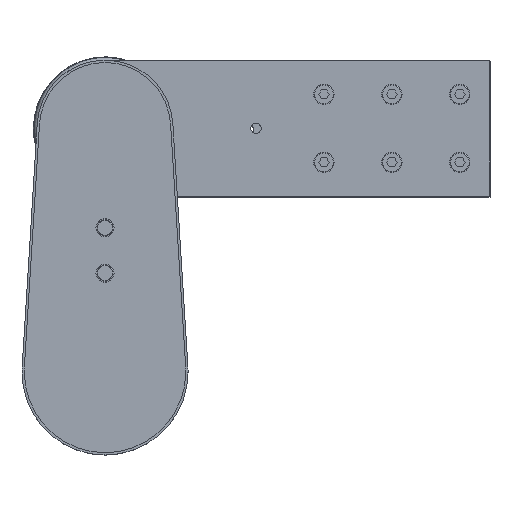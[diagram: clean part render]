
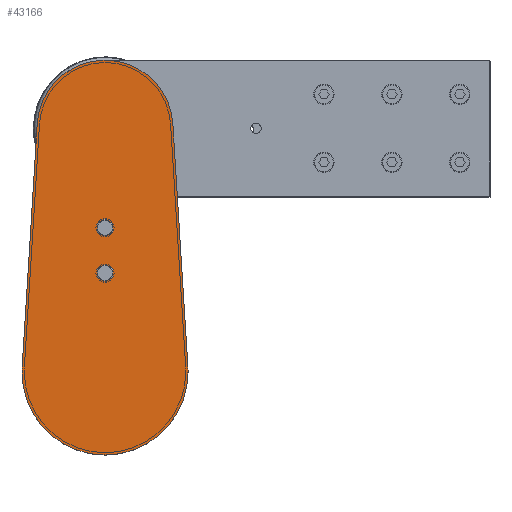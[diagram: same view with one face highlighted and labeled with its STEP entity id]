
A CAD part, top view. The second image highlights one B-rep face of the part: STEP entity #43166.
In plain terms, the highlighted planar face has unit normal (0, 0, 1) as drawn and (0, 0, -1) by its records, which use the part's own axes.
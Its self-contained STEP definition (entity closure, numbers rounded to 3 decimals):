
#2087 = EDGE_LOOP ( 'NONE', ( #16420, #16421 ) ) ;
#2092 = EDGE_LOOP ( 'NONE', ( #16424, #16425, #16426, #16427, #16428, #16429 ) ) ;
#2093 = EDGE_LOOP ( 'NONE', ( #16422, #16423 ) ) ;
#4927 = EDGE_CURVE ( 'NONE', #16083, #16084, #23055, .T. ) ;
#5040 = EDGE_CURVE ( 'NONE', #16084, #16083, #22898, .T. ) ;
#5044 = EDGE_CURVE ( 'NONE', #16078, #16076, #22892, .T. ) ;
#5059 = EDGE_CURVE ( 'NONE', #16052, #16050, #22872, .T. ) ;
#5063 = EDGE_CURVE ( 'NONE', #16047, #16052, #22864, .T. ) ;
#5070 = EDGE_CURVE ( 'NONE', #16044, #16046, #22866, .T. ) ;
#5074 = EDGE_CURVE ( 'NONE', #16046, #16043, #31184, .T. ) ;
#5077 = EDGE_CURVE ( 'NONE', #16050, #16044, #31197, .T. ) ;
#5078 = EDGE_CURVE ( 'NONE', #16043, #16047, #22840, .T. ) ;
#5081 = EDGE_CURVE ( 'NONE', #16076, #16078, #22835, .T. ) ;
#6281 = AXIS2_PLACEMENT_3D ( 'NONE', #12967, #12963, #12973 ) ;
#12963 = DIRECTION ( 'NONE',  ( 0., 0., 1. ) ) ;
#12964 = FACE_BOUND ( 'NONE', #2093, .T. ) ;
#12967 = CARTESIAN_POINT ( 'NONE',  ( 0., 161.5, 0. ) ) ;
#12968 = FACE_BOUND ( 'NONE', #2087, .T. ) ;
#12970 = FACE_OUTER_BOUND ( 'NONE', #2092, .T. ) ;
#12971 = PLANE ( 'NONE',  #6281 ) ;
#12973 = DIRECTION ( 'NONE',  ( 1., 0., 0. ) ) ;
#16043 = VERTEX_POINT ( 'NONE', #32337 ) ;
#16044 = VERTEX_POINT ( 'NONE', #32334 ) ;
#16046 = VERTEX_POINT ( 'NONE', #32335 ) ;
#16047 = VERTEX_POINT ( 'NONE', #32339 ) ;
#16050 = VERTEX_POINT ( 'NONE', #32341 ) ;
#16052 = VERTEX_POINT ( 'NONE', #32338 ) ;
#16076 = VERTEX_POINT ( 'NONE', #32354 ) ;
#16078 = VERTEX_POINT ( 'NONE', #32355 ) ;
#16083 = VERTEX_POINT ( 'NONE', #32358 ) ;
#16084 = VERTEX_POINT ( 'NONE', #26945 ) ;
#16420 = ORIENTED_EDGE ( 'NONE', *, *, #5040, .F. ) ;
#16421 = ORIENTED_EDGE ( 'NONE', *, *, #4927, .F. ) ;
#16422 = ORIENTED_EDGE ( 'NONE', *, *, #5044, .F. ) ;
#16423 = ORIENTED_EDGE ( 'NONE', *, *, #5081, .F. ) ;
#16424 = ORIENTED_EDGE ( 'NONE', *, *, #5070, .F. ) ;
#16425 = ORIENTED_EDGE ( 'NONE', *, *, #5077, .F. ) ;
#16426 = ORIENTED_EDGE ( 'NONE', *, *, #5059, .F. ) ;
#16427 = ORIENTED_EDGE ( 'NONE', *, *, #5063, .F. ) ;
#16428 = ORIENTED_EDGE ( 'NONE', *, *, #5078, .F. ) ;
#16429 = ORIENTED_EDGE ( 'NONE', *, *, #5074, .F. ) ;
#22833 = AXIS2_PLACEMENT_3D ( 'NONE', #31213, #31214, #31215 ) ;
#22835 = CIRCLE ( 'NONE', #22833, 3.5 ) ;
#22838 = AXIS2_PLACEMENT_3D ( 'NONE', #31202, #31203, #31204 ) ;
#22840 = CIRCLE ( 'NONE', #22838, 55. ) ;
#22841 = VECTOR ( 'NONE', #31199, 1000. ) ;
#22849 = AXIS2_PLACEMENT_3D ( 'NONE', #31176, #31177, #31178 ) ;
#22850 = VECTOR ( 'NONE', #31190, 1000. ) ;
#22861 = AXIS2_PLACEMENT_3D ( 'NONE', #31155, #31156, #31157 ) ;
#22864 = CIRCLE ( 'NONE', #22861, 55. ) ;
#22866 = CIRCLE ( 'NONE', #22849, 45. ) ;
#22867 = AXIS2_PLACEMENT_3D ( 'NONE', #31146, #31147, #31148 ) ;
#22872 = CIRCLE ( 'NONE', #22867, 55. ) ;
#22890 = AXIS2_PLACEMENT_3D ( 'NONE', #31101, #31102, #31103 ) ;
#22892 = CIRCLE ( 'NONE', #22890, 3.5 ) ;
#22896 = AXIS2_PLACEMENT_3D ( 'NONE', #31090, #31091, #31092 ) ;
#22898 = CIRCLE ( 'NONE', #22896, 3.5 ) ;
#23051 = AXIS2_PLACEMENT_3D ( 'NONE', #30688, #30689, #30690 ) ;
#23055 = CIRCLE ( 'NONE', #23051, 3.5 ) ;
#26945 = CARTESIAN_POINT ( 'NONE',  ( 3.5, 95.5, 0. ) ) ;
#30688 = CARTESIAN_POINT ( 'NONE',  ( 0., 95.5, 0. ) ) ;
#30689 = DIRECTION ( 'NONE',  ( 0., 0., -1. ) ) ;
#30690 = DIRECTION ( 'NONE',  ( 1., 0., 0. ) ) ;
#31090 = CARTESIAN_POINT ( 'NONE',  ( 0., 95.5, 0. ) ) ;
#31091 = DIRECTION ( 'NONE',  ( 0., 0., -1. ) ) ;
#31092 = DIRECTION ( 'NONE',  ( 1., 0., 0. ) ) ;
#31101 = CARTESIAN_POINT ( 'NONE',  ( 0., 65.5, 0. ) ) ;
#31102 = DIRECTION ( 'NONE',  ( 0., 0., -1. ) ) ;
#31103 = DIRECTION ( 'NONE',  ( 1., 0., 0. ) ) ;
#31146 = CARTESIAN_POINT ( 'NONE',  ( 0., 0., 0. ) ) ;
#31147 = DIRECTION ( 'NONE',  ( 0., 0., 1. ) ) ;
#31148 = DIRECTION ( 'NONE',  ( 1., 0., 0. ) ) ;
#31155 = CARTESIAN_POINT ( 'NONE',  ( 0., 0., 0. ) ) ;
#31156 = DIRECTION ( 'NONE',  ( 0., 0., 1. ) ) ;
#31157 = DIRECTION ( 'NONE',  ( 1., 0., 0. ) ) ;
#31176 = CARTESIAN_POINT ( 'NONE',  ( 0., 161.5, 0. ) ) ;
#31177 = DIRECTION ( 'NONE',  ( 0., 0., 1. ) ) ;
#31178 = DIRECTION ( 'NONE',  ( 1., 0., 0. ) ) ;
#31184 = LINE ( 'NONE', #31189, #22850 ) ;
#31189 = CARTESIAN_POINT ( 'NONE',  ( -44.914, 164.286, 0. ) ) ;
#31190 = DIRECTION ( 'NONE',  ( -0.062, -0.998, 0. ) ) ;
#31197 = LINE ( 'NONE', #31198, #22841 ) ;
#31198 = CARTESIAN_POINT ( 'NONE',  ( 44.914, 164.286, 0. ) ) ;
#31199 = DIRECTION ( 'NONE',  ( -0.062, 0.998, 0. ) ) ;
#31202 = CARTESIAN_POINT ( 'NONE',  ( 0., 0., 0. ) ) ;
#31203 = DIRECTION ( 'NONE',  ( 0., 0., 1. ) ) ;
#31204 = DIRECTION ( 'NONE',  ( 1., 0., 0. ) ) ;
#31213 = CARTESIAN_POINT ( 'NONE',  ( 0., 65.5, 0. ) ) ;
#31214 = DIRECTION ( 'NONE',  ( 0., 0., -1. ) ) ;
#31215 = DIRECTION ( 'NONE',  ( 1., 0., 0. ) ) ;
#32334 = CARTESIAN_POINT ( 'NONE',  ( 44.914, 164.286, 0. ) ) ;
#32335 = CARTESIAN_POINT ( 'NONE',  ( -44.914, 164.286, 0. ) ) ;
#32337 = CARTESIAN_POINT ( 'NONE',  ( -54.894, 3.406, 0. ) ) ;
#32338 = CARTESIAN_POINT ( 'NONE',  ( 55., 0., 0. ) ) ;
#32339 = CARTESIAN_POINT ( 'NONE',  ( -55., 0., 0. ) ) ;
#32341 = CARTESIAN_POINT ( 'NONE',  ( 54.894, 3.406, 0. ) ) ;
#32354 = CARTESIAN_POINT ( 'NONE',  ( -3.5, 65.5, 0. ) ) ;
#32355 = CARTESIAN_POINT ( 'NONE',  ( 3.5, 65.5, 0. ) ) ;
#32358 = CARTESIAN_POINT ( 'NONE',  ( -3.5, 95.5, 0. ) ) ;
#43166 = ADVANCED_FACE ( 'NONE', ( #12968, #12964, #12970 ), #12971, .F. ) ;
